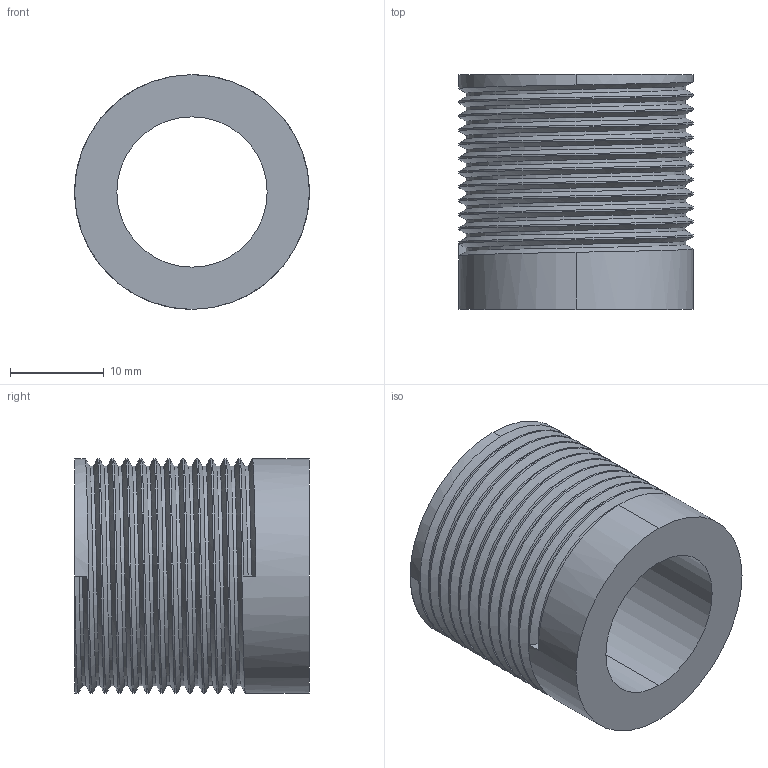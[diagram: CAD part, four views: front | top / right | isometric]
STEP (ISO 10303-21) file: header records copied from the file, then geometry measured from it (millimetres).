
FILE_DESCRIPTION (( 'STEP AP214' ), '1' );
FILE_NAME ('Course Adjust Screw.STEP', '2023-01-19T17:28:32', ( '' ), ( '' ), 'SwSTEP 2.0', 'SolidWorks 2021', '' );
FILE_SCHEMA (( 'AUTOMOTIVE_DESIGN' ));
Length unit declared in the file: millimetre
Products named in the file (1): Course Adjust Screw
Bounding box: 25 x 25 x 25 mm (x, y, z)
Volume: 6620.8 mm3; surface area: 4606.5 mm2
Topology: 1 solids, 1 shells, 35 faces, 97 edges, 64 vertices
Faces by surface type: cylinder 28, plane 4, bspline 3
Entity records: 2919 total; most frequent: CARTESIAN_POINT 2120, ORIENTED_EDGE 194, DIRECTION 120, EDGE_CURVE 97, VERTEX_POINT 64, AXIS2_PLACEMENT_3D 42, EDGE_LOOP 37, VECTOR 36
